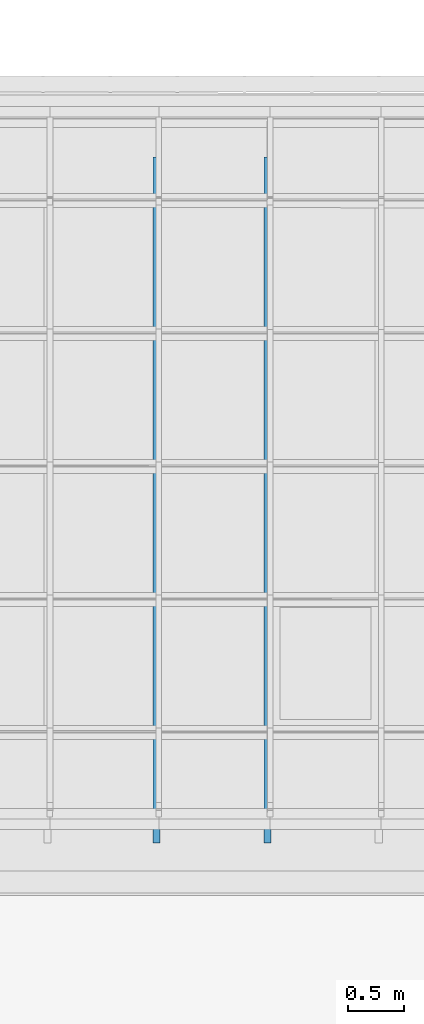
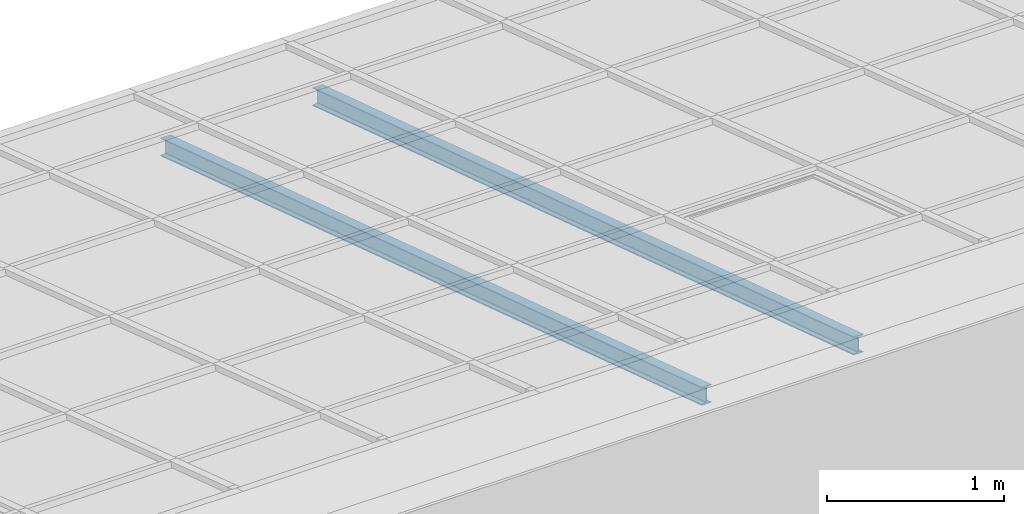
# One storey, part 10 of 47: 2 beams.
"""IFC2X3 building model written with IfcOpenShell, lengths in millimetres."""

from ifc_helpers import new_model, entity, si_unit, converted_unit, derived_unit, money_unit, point, direction, frame, frame_2d, origin_with_axes, place, context, subcontext, project, spatial, polyline, circle_curve, parameter, trimmed, segment, composite_curve, outline, extrude, clip, halfspace, material, type_object, element, save


model = new_model("IFC2X3")

# Units and contexts
model_context = context("Model", 3, precision=1e-05, world=origin_with_axes(), true_north=direction((0.0, 1.0)))
body_context = subcontext(model_context, "Body", "Model", "MODEL_VIEW")
ifc_project = project(units=[si_unit("LENGTHUNIT", "METRE", prefix="MILLI"), si_unit("AREAUNIT", "SQUARE_METRE"), si_unit("VOLUMEUNIT", "CUBIC_METRE"), converted_unit("PLANEANGLEUNIT", "DEGREE", entity("IfcPlaneAngleMeasure", 0.0174532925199), si_unit("PLANEANGLEUNIT", "RADIAN"), dimensions=[0, 0, 0, 0, 0, 0, 0]), si_unit("SOLIDANGLEUNIT", "STERADIAN"), money_unit("EUR"), converted_unit("TIMEUNIT", "Year", entity("IfcTimeMeasure", 31556926.0), si_unit("TIMEUNIT", "SECOND"), dimensions=[0, 0, 1, 0, 0, 0, 0]), si_unit("MASSUNIT", "GRAM", prefix="KILO"), si_unit("THERMODYNAMICTEMPERATUREUNIT", "DEGREE_CELSIUS"), si_unit("LUMINOUSINTENSITYUNIT", "LUMEN"), si_unit("ENERGYUNIT", "JOULE", prefix="MEGA"), derived_unit("THERMALCONDUCTANCEUNIT", [(si_unit("POWERUNIT", "WATT"), 1), (si_unit("LENGTHUNIT", "METRE"), -1), (si_unit("THERMODYNAMICTEMPERATUREUNIT", "KELVIN"), -1)]), derived_unit("SPECIFICHEATCAPACITYUNIT", [(si_unit("ENERGYUNIT", "JOULE"), 1), (si_unit("MASSUNIT", "GRAM", prefix="KILO"), -1), (si_unit("THERMODYNAMICTEMPERATUREUNIT", "KELVIN"), -1)]), derived_unit("MASSDENSITYUNIT", [(si_unit("MASSUNIT", "GRAM", prefix="KILO"), 1), (si_unit("VOLUMEUNIT", "CUBIC_METRE"), -1)])], contexts=[model_context])

# Site, building, storey
site_placement = place(None, origin_with_axes())
site = spatial("IfcSite", under=ifc_project, at=site_placement, Name="Site", CompositionType="ELEMENT")
building_placement = place(site_placement, origin_with_axes())
building = spatial("IfcBuilding", under=site, at=building_placement, Name="Building", CompositionType="ELEMENT")
storey_placement = place(building_placement, frame((0.0, 0.0, 6000.0), z_axis=(0.0, 0.0, 1.0), x_axis=(1.0, 0.0, 0.0)))
storey = spatial("IfcBuildingStorey", under=building, at=storey_placement, Name="KATUSEPLAAN", CompositionType="ELEMENT", Elevation=6000.0)

# Beams
ifc_material = material(Name="Teras (1)")
beam_type = type_object("IfcBeamType", Name="IPE 120", PredefinedType="NOTDEFINED")
beam_1_placement = place(storey_placement, frame((82896.081763, 46947.8063411, 711.763952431), z_axis=(0.0, 0.0, 1.0), x_axis=(-1.0, 0.0, 0.0)))
element("IfcBeam", 1, at=beam_1_placement, inside=storey, type_object=beam_type, material=ifc_material, Name="I Joist - Steel", ObjectType="I Joist - Steel 64 x 120", context=body_context, shape_type="Clipping", body=[
    clip(clip(extrude(outline(composite_curve([segment(polyline([(32.0018479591, -120.000212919), (32.0018479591, -117.505222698)]), True, "CONTINUOUS"), segment(trimmed(circle_curve(frame_2d((27.3321376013, -117.498683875), x_axis=(0.999999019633, -0.00140026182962)), 4.66971493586), [point((32.0018479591, -117.505222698)), parameter(0.0)], [point((31.7461003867, -115.974488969)), parameter(19.1306436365)], True, "CARTESIAN"), True, "CONTINUOUS"), segment(trimmed(circle_curve(frame_2d((27.8471066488, -117.309508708), x_axis=(0.94607823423, 0.323938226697)), 4.12121703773), [point((31.7461003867, -115.974488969)), parameter(0.0)], [point((31.017792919, -114.676795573)), parameter(20.802576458)], True, "CARTESIAN"), True, "CONTINUOUS"), segment(trimmed(circle_curve(frame_2d((28.4090653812, -116.837495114), x_axis=(0.770140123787, 0.637874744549)), 3.38734141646), [point((31.017792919, -114.676795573)), parameter(0.0)], [point((29.9278037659, -113.809704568)), parameter(23.7281511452)], True, "CARTESIAN"), True, "CONTINUOUS"), segment(trimmed(circle_curve(frame_2d((28.6333599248, -116.404648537), x_axis=(0.446378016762, 0.89484449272)), 2.89988259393), [point((29.9278037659, -113.809704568)), parameter(0.0)], [point((29.1110817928, -113.544386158)), parameter(17.0295027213)], True, "CARTESIAN"), True, "CONTINUOUS"), segment(polyline([(29.1110817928, -113.544386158), (5.24260801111, -109.566039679)]), True, "CONTINUOUS"), segment(trimmed(circle_curve(frame_2d((5.72032987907, -106.7057773), x_axis=(-0.446378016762, -0.89484449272)), 2.89988259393), [point((5.24260801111, -109.566039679)), parameter(17.0295027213)], [point((4.42588603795, -109.300721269)), parameter(0.0)], False, "CARTESIAN"), True, "CONTINUOUS"), segment(trimmed(circle_curve(frame_2d((5.94462442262, -106.272930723), x_axis=(-0.770140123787, -0.637874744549)), 3.38734141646), [point((4.42588603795, -109.300721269)), parameter(23.7281511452)], [point((3.33589688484, -108.433630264)), parameter(0.0)], False, "CARTESIAN"), True, "CONTINUOUS"), segment(trimmed(circle_curve(frame_2d((6.5065831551, -105.800917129), x_axis=(-0.94607823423, -0.323938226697)), 4.12121703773), [point((3.33589688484, -108.433630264)), parameter(20.802576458)], [point((2.60758941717, -107.135936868)), parameter(0.0)], False, "CARTESIAN"), True, "CONTINUOUS"), segment(trimmed(circle_curve(frame_2d((7.02155220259, -105.611741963), x_axis=(-0.999999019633, 0.00140026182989)), 4.66971493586), [point((2.60758941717, -107.135936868)), parameter(19.1306436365)], [point((2.35184184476, -105.605203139)), parameter(0.0)], False, "CARTESIAN"), True, "CONTINUOUS"), segment(polyline([(2.35184184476, -105.605203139), (2.35184184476, -14.3950097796)]), True, "CONTINUOUS"), segment(trimmed(circle_curve(frame_2d((7.02155220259, -14.3884709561), x_axis=(-0.945231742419, 0.326399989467)), 4.66971493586), [point((2.35184184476, -14.3950097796)), parameter(19.1306436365)], [point((2.60758941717, -12.8642760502)), parameter(0.0)], False, "CARTESIAN"), True, "CONTINUOUS"), segment(trimmed(circle_curve(frame_2d((6.5065831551, -14.1992957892), x_axis=(-0.769356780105, 0.638819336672)), 4.12121703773), [point((2.60758941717, -12.8642760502)), parameter(20.802576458)], [point((3.33589688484, -11.5665826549)), parameter(0.0)], False, "CARTESIAN"), True, "CONTINUOUS"), segment(trimmed(circle_curve(frame_2d((5.94462442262, -13.7272821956), x_axis=(-0.44835704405, 0.893854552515)), 3.38734141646), [point((3.33589688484, -11.5665826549)), parameter(23.7281511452)], [point((4.42588603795, -10.6994916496)), parameter(0.0)], False, "CARTESIAN"), True, "CONTINUOUS"), segment(trimmed(circle_curve(frame_2d((5.72032987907, -13.2944356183), x_axis=(-0.164738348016, 0.986337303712)), 2.89988259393), [point((4.42588603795, -10.6994916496)), parameter(17.0295027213)], [point((5.24260801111, -10.4341732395)), parameter(0.0)], False, "CARTESIAN"), True, "CONTINUOUS"), segment(polyline([(5.24260801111, -10.4341732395), (29.1110817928, -6.45582676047)]), True, "CONTINUOUS"), segment(trimmed(circle_curve(frame_2d((28.6333599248, -3.59556438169), x_axis=(0.164738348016, -0.986337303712)), 2.89988259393), [point((29.1110817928, -6.45582676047)), parameter(0.0)], [point((29.9278037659, -6.19050835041)), parameter(17.0295027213)], True, "CARTESIAN"), True, "CONTINUOUS"), segment(trimmed(circle_curve(frame_2d((28.4090653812, -3.16271780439), x_axis=(0.44835704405, -0.893854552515)), 3.38734141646), [point((29.9278037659, -6.19050835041)), parameter(0.0)], [point((31.017792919, -5.32341734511)), parameter(23.7281511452)], True, "CARTESIAN"), True, "CONTINUOUS"), segment(trimmed(circle_curve(frame_2d((27.8471066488, -2.69070421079), x_axis=(0.769356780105, -0.638819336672)), 4.12121703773), [point((31.017792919, -5.32341734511)), parameter(0.0)], [point((31.7461003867, -4.02572394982)), parameter(20.802576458)], True, "CARTESIAN"), True, "CONTINUOUS"), segment(trimmed(circle_curve(frame_2d((27.3321376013, -2.50152904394), x_axis=(0.945231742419, -0.326399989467)), 4.66971493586), [point((31.7461003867, -4.02572394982)), parameter(0.0)], [point((32.0018479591, -2.49499022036)), parameter(19.1306436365)], True, "CARTESIAN"), True, "CONTINUOUS"), segment(polyline([(32.0018479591, -2.49499022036), (32.0018479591, 0.0), (-32.0018479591, 0.0), (-32.0018479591, -2.49499022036)]), True, "CONTINUOUS"), segment(trimmed(circle_curve(frame_2d((-27.3321376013, -2.50152904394), x_axis=(-0.999999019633, 0.00140026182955)), 4.66971493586), [point((-32.0018479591, -2.49499022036)), parameter(0.0)], [point((-31.7461003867, -4.02572394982)), parameter(19.1306436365)], True, "CARTESIAN"), True, "CONTINUOUS"), segment(trimmed(circle_curve(frame_2d((-27.8471066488, -2.69070421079), x_axis=(-0.94607823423, -0.323938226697)), 4.12121703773), [point((-31.7461003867, -4.02572394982)), parameter(0.0)], [point((-31.017792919, -5.32341734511)), parameter(20.802576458)], True, "CARTESIAN"), True, "CONTINUOUS"), segment(trimmed(circle_curve(frame_2d((-28.4090653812, -3.16271780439), x_axis=(-0.770140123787, -0.637874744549)), 3.38734141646), [point((-31.017792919, -5.32341734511)), parameter(0.0)], [point((-29.9278037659, -6.19050835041)), parameter(23.7281511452)], True, "CARTESIAN"), True, "CONTINUOUS"), segment(trimmed(circle_curve(frame_2d((-28.6333599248, -3.59556438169), x_axis=(-0.446378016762, -0.89484449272)), 2.89988259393), [point((-29.9278037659, -6.19050835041)), parameter(0.0)], [point((-29.1110817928, -6.45582676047)), parameter(17.0295027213)], True, "CARTESIAN"), True, "CONTINUOUS"), segment(polyline([(-29.1110817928, -6.45582676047), (-5.24260801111, -10.4341732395)]), True, "CONTINUOUS"), segment(trimmed(circle_curve(frame_2d((-5.72032987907, -13.2944356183), x_axis=(0.446378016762, 0.89484449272)), 2.89988259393), [point((-5.24260801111, -10.4341732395)), parameter(17.0295027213)], [point((-4.42588603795, -10.6994916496)), parameter(0.0)], False, "CARTESIAN"), True, "CONTINUOUS"), segment(trimmed(circle_curve(frame_2d((-5.94462442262, -13.7272821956), x_axis=(0.770140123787, 0.637874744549)), 3.38734141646), [point((-4.42588603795, -10.6994916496)), parameter(23.7281511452)], [point((-3.33589688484, -11.5665826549)), parameter(0.0)], False, "CARTESIAN"), True, "CONTINUOUS"), segment(trimmed(circle_curve(frame_2d((-6.5065831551, -14.1992957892), x_axis=(0.94607823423, 0.323938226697)), 4.12121703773), [point((-3.33589688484, -11.5665826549)), parameter(20.802576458)], [point((-2.60758941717, -12.8642760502)), parameter(0.0)], False, "CARTESIAN"), True, "CONTINUOUS"), segment(trimmed(circle_curve(frame_2d((-7.02155220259, -14.3884709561), x_axis=(0.999999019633, -0.00140026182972)), 4.66971493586), [point((-2.60758941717, -12.8642760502)), parameter(19.1306436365)], [point((-2.35184184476, -14.3950097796)), parameter(0.0)], False, "CARTESIAN"), True, "CONTINUOUS"), segment(polyline([(-2.35184184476, -14.3950097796), (-2.35184184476, -105.605203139)]), True, "CONTINUOUS"), segment(trimmed(circle_curve(frame_2d((-7.02155220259, -105.611741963), x_axis=(0.945231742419, -0.326399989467)), 4.66971493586), [point((-2.35184184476, -105.605203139)), parameter(19.1306436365)], [point((-2.60758941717, -107.135936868)), parameter(0.0)], False, "CARTESIAN"), True, "CONTINUOUS"), segment(trimmed(circle_curve(frame_2d((-6.5065831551, -105.800917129), x_axis=(0.769356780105, -0.638819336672)), 4.12121703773), [point((-2.60758941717, -107.135936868)), parameter(20.802576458)], [point((-3.33589688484, -108.433630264)), parameter(0.0)], False, "CARTESIAN"), True, "CONTINUOUS"), segment(trimmed(circle_curve(frame_2d((-5.94462442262, -106.272930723), x_axis=(0.44835704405, -0.893854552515)), 3.38734141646), [point((-3.33589688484, -108.433630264)), parameter(23.7281511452)], [point((-4.42588603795, -109.300721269)), parameter(0.0)], False, "CARTESIAN"), True, "CONTINUOUS"), segment(trimmed(circle_curve(frame_2d((-5.72032987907, -106.7057773), x_axis=(0.164738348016, -0.986337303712)), 2.89988259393), [point((-4.42588603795, -109.300721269)), parameter(17.0295027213)], [point((-5.24260801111, -109.566039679)), parameter(0.0)], False, "CARTESIAN"), True, "CONTINUOUS"), segment(polyline([(-5.24260801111, -109.566039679), (-29.1110817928, -113.544386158)]), True, "CONTINUOUS"), segment(trimmed(circle_curve(frame_2d((-28.6333599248, -116.404648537), x_axis=(-0.164738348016, 0.986337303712)), 2.89988259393), [point((-29.1110817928, -113.544386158)), parameter(0.0)], [point((-29.9278037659, -113.809704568)), parameter(17.0295027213)], True, "CARTESIAN"), True, "CONTINUOUS"), segment(trimmed(circle_curve(frame_2d((-28.4090653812, -116.837495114), x_axis=(-0.44835704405, 0.893854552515)), 3.38734141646), [point((-29.9278037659, -113.809704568)), parameter(0.0)], [point((-31.017792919, -114.676795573)), parameter(23.7281511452)], True, "CARTESIAN"), True, "CONTINUOUS"), segment(trimmed(circle_curve(frame_2d((-27.8471066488, -117.309508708), x_axis=(-0.769356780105, 0.638819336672)), 4.12121703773), [point((-31.017792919, -114.676795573)), parameter(0.0)], [point((-31.7461003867, -115.974488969)), parameter(20.802576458)], True, "CARTESIAN"), True, "CONTINUOUS"), segment(trimmed(circle_curve(frame_2d((-27.3321376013, -117.498683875), x_axis=(-0.945231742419, 0.326399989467)), 4.66971493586), [point((-31.7461003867, -115.974488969)), parameter(0.0)], [point((-32.0018479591, -117.505222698)), parameter(19.1306436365)], True, "CARTESIAN"), True, "CONTINUOUS"), segment(polyline([(-32.0018479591, -117.505222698), (-32.0018479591, -120.000212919), (32.0018479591, -120.000212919)]), True, "CONTINUOUS")], self_intersect=False)), frame((0.0, 6177.44201598, 2007.17258333), z_axis=(0.0, 0.951056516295, 0.309016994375), x_axis=(-1.0, 0.0, 0.0)), (0.0, 0.0, -1.0), 6550.487721), halfspace(frame((0.0, 6125.0, 0.0), z_axis=(0.0, -1.0, 0.0), x_axis=(0.0, 0.0, -1.0)), True)), halfspace(frame((0.0, 0.0, 0.0), z_axis=(0.0, 1.0, 0.0), x_axis=(0.0, 0.0, 1.0)), True)),
])
beam_2_placement = place(storey_placement, frame((81903.081763, 46947.8063411, 711.763952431), z_axis=(0.0, 0.0, 1.0), x_axis=(-1.0, 0.0, 0.0)))
element("IfcBeam", 2, at=beam_2_placement, inside=storey, type_object=beam_type, material=ifc_material, Name="I Joist - Steel", ObjectType="I Joist - Steel 64 x 120", context=body_context, shape_type="Clipping", body=[
    clip(clip(extrude(outline(composite_curve([segment(polyline([(32.0018479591, -120.000212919), (32.0018479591, -117.505222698)]), True, "CONTINUOUS"), segment(trimmed(circle_curve(frame_2d((27.3321376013, -117.498683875), x_axis=(0.999999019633, -0.00140026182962)), 4.66971493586), [point((32.0018479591, -117.505222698)), parameter(0.0)], [point((31.7461003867, -115.974488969)), parameter(19.1306436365)], True, "CARTESIAN"), True, "CONTINUOUS"), segment(trimmed(circle_curve(frame_2d((27.8471066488, -117.309508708), x_axis=(0.94607823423, 0.323938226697)), 4.12121703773), [point((31.7461003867, -115.974488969)), parameter(0.0)], [point((31.017792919, -114.676795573)), parameter(20.802576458)], True, "CARTESIAN"), True, "CONTINUOUS"), segment(trimmed(circle_curve(frame_2d((28.4090653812, -116.837495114), x_axis=(0.770140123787, 0.637874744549)), 3.38734141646), [point((31.017792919, -114.676795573)), parameter(0.0)], [point((29.9278037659, -113.809704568)), parameter(23.7281511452)], True, "CARTESIAN"), True, "CONTINUOUS"), segment(trimmed(circle_curve(frame_2d((28.6333599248, -116.404648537), x_axis=(0.446378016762, 0.89484449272)), 2.89988259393), [point((29.9278037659, -113.809704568)), parameter(0.0)], [point((29.1110817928, -113.544386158)), parameter(17.0295027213)], True, "CARTESIAN"), True, "CONTINUOUS"), segment(polyline([(29.1110817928, -113.544386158), (5.24260801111, -109.566039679)]), True, "CONTINUOUS"), segment(trimmed(circle_curve(frame_2d((5.72032987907, -106.7057773), x_axis=(-0.446378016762, -0.89484449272)), 2.89988259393), [point((5.24260801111, -109.566039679)), parameter(17.0295027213)], [point((4.42588603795, -109.300721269)), parameter(0.0)], False, "CARTESIAN"), True, "CONTINUOUS"), segment(trimmed(circle_curve(frame_2d((5.94462442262, -106.272930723), x_axis=(-0.770140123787, -0.637874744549)), 3.38734141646), [point((4.42588603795, -109.300721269)), parameter(23.7281511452)], [point((3.33589688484, -108.433630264)), parameter(0.0)], False, "CARTESIAN"), True, "CONTINUOUS"), segment(trimmed(circle_curve(frame_2d((6.5065831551, -105.800917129), x_axis=(-0.94607823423, -0.323938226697)), 4.12121703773), [point((3.33589688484, -108.433630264)), parameter(20.802576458)], [point((2.60758941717, -107.135936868)), parameter(0.0)], False, "CARTESIAN"), True, "CONTINUOUS"), segment(trimmed(circle_curve(frame_2d((7.02155220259, -105.611741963), x_axis=(-0.999999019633, 0.00140026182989)), 4.66971493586), [point((2.60758941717, -107.135936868)), parameter(19.1306436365)], [point((2.35184184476, -105.605203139)), parameter(0.0)], False, "CARTESIAN"), True, "CONTINUOUS"), segment(polyline([(2.35184184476, -105.605203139), (2.35184184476, -14.3950097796)]), True, "CONTINUOUS"), segment(trimmed(circle_curve(frame_2d((7.02155220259, -14.3884709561), x_axis=(-0.945231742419, 0.326399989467)), 4.66971493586), [point((2.35184184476, -14.3950097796)), parameter(19.1306436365)], [point((2.60758941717, -12.8642760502)), parameter(0.0)], False, "CARTESIAN"), True, "CONTINUOUS"), segment(trimmed(circle_curve(frame_2d((6.5065831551, -14.1992957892), x_axis=(-0.769356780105, 0.638819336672)), 4.12121703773), [point((2.60758941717, -12.8642760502)), parameter(20.802576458)], [point((3.33589688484, -11.5665826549)), parameter(0.0)], False, "CARTESIAN"), True, "CONTINUOUS"), segment(trimmed(circle_curve(frame_2d((5.94462442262, -13.7272821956), x_axis=(-0.44835704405, 0.893854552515)), 3.38734141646), [point((3.33589688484, -11.5665826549)), parameter(23.7281511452)], [point((4.42588603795, -10.6994916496)), parameter(0.0)], False, "CARTESIAN"), True, "CONTINUOUS"), segment(trimmed(circle_curve(frame_2d((5.72032987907, -13.2944356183), x_axis=(-0.164738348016, 0.986337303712)), 2.89988259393), [point((4.42588603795, -10.6994916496)), parameter(17.0295027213)], [point((5.24260801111, -10.4341732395)), parameter(0.0)], False, "CARTESIAN"), True, "CONTINUOUS"), segment(polyline([(5.24260801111, -10.4341732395), (29.1110817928, -6.45582676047)]), True, "CONTINUOUS"), segment(trimmed(circle_curve(frame_2d((28.6333599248, -3.59556438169), x_axis=(0.164738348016, -0.986337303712)), 2.89988259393), [point((29.1110817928, -6.45582676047)), parameter(0.0)], [point((29.9278037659, -6.19050835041)), parameter(17.0295027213)], True, "CARTESIAN"), True, "CONTINUOUS"), segment(trimmed(circle_curve(frame_2d((28.4090653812, -3.16271780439), x_axis=(0.44835704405, -0.893854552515)), 3.38734141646), [point((29.9278037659, -6.19050835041)), parameter(0.0)], [point((31.017792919, -5.32341734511)), parameter(23.7281511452)], True, "CARTESIAN"), True, "CONTINUOUS"), segment(trimmed(circle_curve(frame_2d((27.8471066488, -2.69070421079), x_axis=(0.769356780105, -0.638819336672)), 4.12121703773), [point((31.017792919, -5.32341734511)), parameter(0.0)], [point((31.7461003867, -4.02572394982)), parameter(20.802576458)], True, "CARTESIAN"), True, "CONTINUOUS"), segment(trimmed(circle_curve(frame_2d((27.3321376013, -2.50152904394), x_axis=(0.945231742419, -0.326399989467)), 4.66971493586), [point((31.7461003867, -4.02572394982)), parameter(0.0)], [point((32.0018479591, -2.49499022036)), parameter(19.1306436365)], True, "CARTESIAN"), True, "CONTINUOUS"), segment(polyline([(32.0018479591, -2.49499022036), (32.0018479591, 0.0), (-32.0018479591, 0.0), (-32.0018479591, -2.49499022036)]), True, "CONTINUOUS"), segment(trimmed(circle_curve(frame_2d((-27.3321376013, -2.50152904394), x_axis=(-0.999999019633, 0.00140026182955)), 4.66971493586), [point((-32.0018479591, -2.49499022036)), parameter(0.0)], [point((-31.7461003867, -4.02572394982)), parameter(19.1306436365)], True, "CARTESIAN"), True, "CONTINUOUS"), segment(trimmed(circle_curve(frame_2d((-27.8471066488, -2.69070421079), x_axis=(-0.94607823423, -0.323938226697)), 4.12121703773), [point((-31.7461003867, -4.02572394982)), parameter(0.0)], [point((-31.017792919, -5.32341734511)), parameter(20.802576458)], True, "CARTESIAN"), True, "CONTINUOUS"), segment(trimmed(circle_curve(frame_2d((-28.4090653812, -3.16271780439), x_axis=(-0.770140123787, -0.637874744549)), 3.38734141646), [point((-31.017792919, -5.32341734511)), parameter(0.0)], [point((-29.9278037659, -6.19050835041)), parameter(23.7281511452)], True, "CARTESIAN"), True, "CONTINUOUS"), segment(trimmed(circle_curve(frame_2d((-28.6333599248, -3.59556438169), x_axis=(-0.446378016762, -0.89484449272)), 2.89988259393), [point((-29.9278037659, -6.19050835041)), parameter(0.0)], [point((-29.1110817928, -6.45582676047)), parameter(17.0295027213)], True, "CARTESIAN"), True, "CONTINUOUS"), segment(polyline([(-29.1110817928, -6.45582676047), (-5.24260801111, -10.4341732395)]), True, "CONTINUOUS"), segment(trimmed(circle_curve(frame_2d((-5.72032987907, -13.2944356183), x_axis=(0.446378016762, 0.89484449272)), 2.89988259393), [point((-5.24260801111, -10.4341732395)), parameter(17.0295027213)], [point((-4.42588603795, -10.6994916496)), parameter(0.0)], False, "CARTESIAN"), True, "CONTINUOUS"), segment(trimmed(circle_curve(frame_2d((-5.94462442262, -13.7272821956), x_axis=(0.770140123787, 0.637874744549)), 3.38734141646), [point((-4.42588603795, -10.6994916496)), parameter(23.7281511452)], [point((-3.33589688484, -11.5665826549)), parameter(0.0)], False, "CARTESIAN"), True, "CONTINUOUS"), segment(trimmed(circle_curve(frame_2d((-6.5065831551, -14.1992957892), x_axis=(0.94607823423, 0.323938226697)), 4.12121703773), [point((-3.33589688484, -11.5665826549)), parameter(20.802576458)], [point((-2.60758941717, -12.8642760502)), parameter(0.0)], False, "CARTESIAN"), True, "CONTINUOUS"), segment(trimmed(circle_curve(frame_2d((-7.02155220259, -14.3884709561), x_axis=(0.999999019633, -0.00140026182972)), 4.66971493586), [point((-2.60758941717, -12.8642760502)), parameter(19.1306436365)], [point((-2.35184184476, -14.3950097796)), parameter(0.0)], False, "CARTESIAN"), True, "CONTINUOUS"), segment(polyline([(-2.35184184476, -14.3950097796), (-2.35184184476, -105.605203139)]), True, "CONTINUOUS"), segment(trimmed(circle_curve(frame_2d((-7.02155220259, -105.611741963), x_axis=(0.945231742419, -0.326399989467)), 4.66971493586), [point((-2.35184184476, -105.605203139)), parameter(19.1306436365)], [point((-2.60758941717, -107.135936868)), parameter(0.0)], False, "CARTESIAN"), True, "CONTINUOUS"), segment(trimmed(circle_curve(frame_2d((-6.5065831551, -105.800917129), x_axis=(0.769356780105, -0.638819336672)), 4.12121703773), [point((-2.60758941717, -107.135936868)), parameter(20.802576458)], [point((-3.33589688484, -108.433630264)), parameter(0.0)], False, "CARTESIAN"), True, "CONTINUOUS"), segment(trimmed(circle_curve(frame_2d((-5.94462442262, -106.272930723), x_axis=(0.44835704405, -0.893854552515)), 3.38734141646), [point((-3.33589688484, -108.433630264)), parameter(23.7281511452)], [point((-4.42588603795, -109.300721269)), parameter(0.0)], False, "CARTESIAN"), True, "CONTINUOUS"), segment(trimmed(circle_curve(frame_2d((-5.72032987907, -106.7057773), x_axis=(0.164738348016, -0.986337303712)), 2.89988259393), [point((-4.42588603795, -109.300721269)), parameter(17.0295027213)], [point((-5.24260801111, -109.566039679)), parameter(0.0)], False, "CARTESIAN"), True, "CONTINUOUS"), segment(polyline([(-5.24260801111, -109.566039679), (-29.1110817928, -113.544386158)]), True, "CONTINUOUS"), segment(trimmed(circle_curve(frame_2d((-28.6333599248, -116.404648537), x_axis=(-0.164738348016, 0.986337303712)), 2.89988259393), [point((-29.1110817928, -113.544386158)), parameter(0.0)], [point((-29.9278037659, -113.809704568)), parameter(17.0295027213)], True, "CARTESIAN"), True, "CONTINUOUS"), segment(trimmed(circle_curve(frame_2d((-28.4090653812, -116.837495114), x_axis=(-0.44835704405, 0.893854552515)), 3.38734141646), [point((-29.9278037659, -113.809704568)), parameter(0.0)], [point((-31.017792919, -114.676795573)), parameter(23.7281511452)], True, "CARTESIAN"), True, "CONTINUOUS"), segment(trimmed(circle_curve(frame_2d((-27.8471066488, -117.309508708), x_axis=(-0.769356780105, 0.638819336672)), 4.12121703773), [point((-31.017792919, -114.676795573)), parameter(0.0)], [point((-31.7461003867, -115.974488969)), parameter(20.802576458)], True, "CARTESIAN"), True, "CONTINUOUS"), segment(trimmed(circle_curve(frame_2d((-27.3321376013, -117.498683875), x_axis=(-0.945231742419, 0.326399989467)), 4.66971493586), [point((-31.7461003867, -115.974488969)), parameter(0.0)], [point((-32.0018479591, -117.505222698)), parameter(19.1306436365)], True, "CARTESIAN"), True, "CONTINUOUS"), segment(polyline([(-32.0018479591, -117.505222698), (-32.0018479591, -120.000212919), (32.0018479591, -120.000212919)]), True, "CONTINUOUS")], self_intersect=False)), frame((0.0, 6177.44201598, 2007.17258333), z_axis=(0.0, 0.951056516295, 0.309016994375), x_axis=(-1.0, 0.0, 0.0)), (0.0, 0.0, -1.0), 6550.487721), halfspace(frame((0.0, 6125.0, 0.0), z_axis=(0.0, -1.0, 0.0), x_axis=(0.0, 0.0, -1.0)), True)), halfspace(frame((0.0, 0.0, 0.0), z_axis=(0.0, 1.0, 0.0), x_axis=(0.0, 0.0, 1.0)), True)),
])

save(model, "model.ifc")
